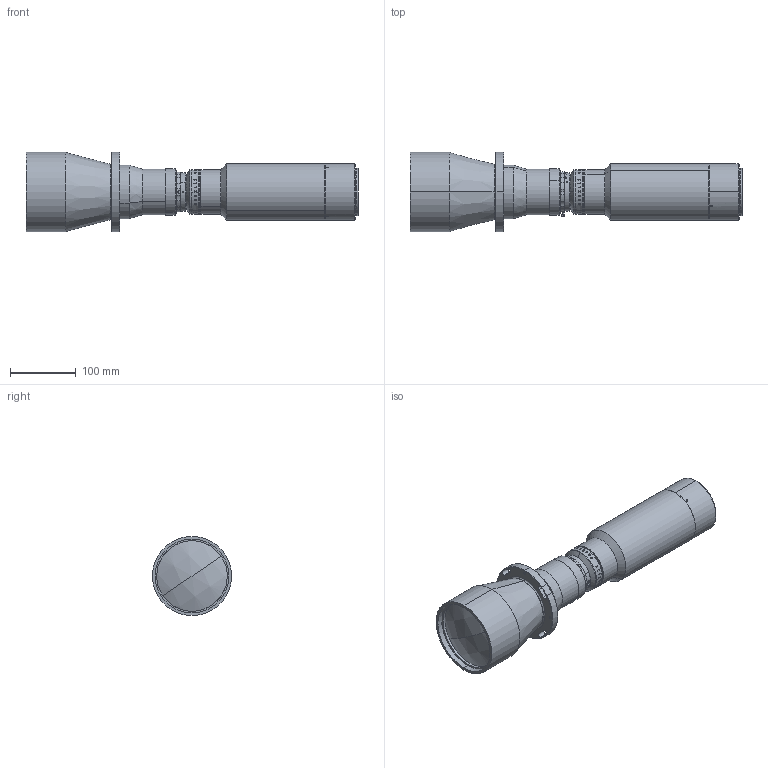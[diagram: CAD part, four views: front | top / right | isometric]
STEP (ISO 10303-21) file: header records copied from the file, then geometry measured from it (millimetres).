
FILE_DESCRIPTION (( 'STEP AP203' ), '1' );
FILE_NAME ('XF-PTL09262-M72-11.48-VI1.STEP', '2020-05-09T02:46:57', ( 'puyufan' ), ( '' ), 'SwSTEP 2.0', 'SolidWorks 2014', '' );
FILE_SCHEMA (( 'CONFIG_CONTROL_DESIGN' ));
Length unit declared in the file: millimetre
Products named in the file (1): XF-PTL09262-M72-11.48-VI1
Bounding box: 503.81 x 120 x 120 mm (x, y, z)
Surface area: 203961.9 mm2 (no closed solid volume)
Topology: 0 solids, 79 shells, 270 faces, 1879 edges, 1669 vertices
Faces by surface type: cylinder 187, plane 44, cone 30, torus 4, bspline 3, sphere 2
Entity records: 31023 total; most frequent: CARTESIAN_POINT 17873, DIRECTION 2491, ORIENTED_EDGE 2295, EDGE_CURVE 1879, VERTEX_POINT 1669, AXIS2_PLACEMENT_3D 977, CIRCLE 709, B_SPLINE_CURVE_WITH_KNOTS 633
